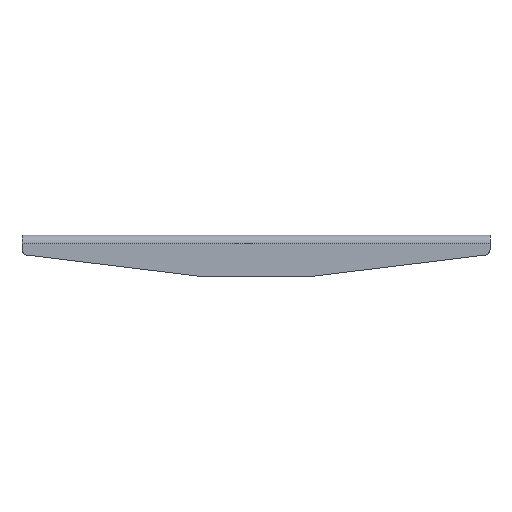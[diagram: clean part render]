
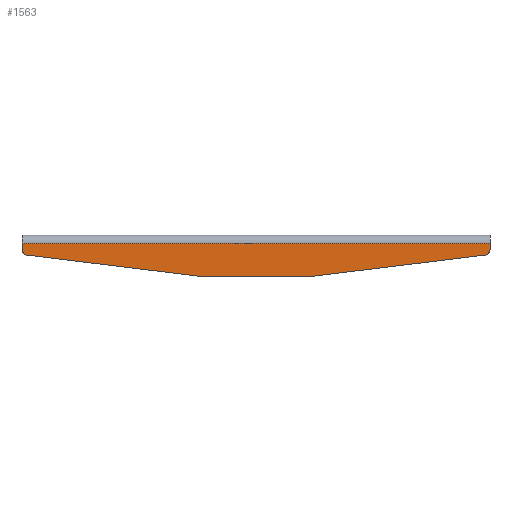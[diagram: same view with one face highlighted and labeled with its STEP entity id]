
A CAD part, left-side view. The second image highlights one B-rep face of the part: STEP entity #1563.
In plain terms, the highlighted planar face has unit normal (-1, 0, 0).
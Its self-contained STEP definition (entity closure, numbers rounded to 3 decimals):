
#135=LINE('',#2607,#265);
#139=LINE('',#2622,#269);
#156=LINE('',#2674,#286);
#157=LINE('',#2678,#287);
#158=LINE('',#2682,#288);
#159=LINE('',#2685,#289);
#265=VECTOR('',#2080,1000.);
#269=VECTOR('',#2094,1000.);
#286=VECTOR('',#2149,1000.);
#287=VECTOR('',#2152,1000.);
#288=VECTOR('',#2155,1000.);
#289=VECTOR('',#2158,1000.);
#502=ORIENTED_EDGE('',*,*,#875,.T.);
#503=ORIENTED_EDGE('',*,*,#910,.T.);
#504=ORIENTED_EDGE('',*,*,#911,.T.);
#505=ORIENTED_EDGE('',*,*,#912,.T.);
#506=ORIENTED_EDGE('',*,*,#913,.T.);
#507=ORIENTED_EDGE('',*,*,#914,.T.);
#508=ORIENTED_EDGE('',*,*,#915,.T.);
#509=ORIENTED_EDGE('',*,*,#916,.T.);
#510=ORIENTED_EDGE('',*,*,#883,.T.);
#511=ORIENTED_EDGE('',*,*,#917,.T.);
#875=EDGE_CURVE('',#1090,#1089,#135,.T.);
#883=EDGE_CURVE('',#1096,#1095,#139,.T.);
#910=EDGE_CURVE('',#1089,#1111,#1212,.T.);
#911=EDGE_CURVE('',#1111,#1112,#156,.T.);
#912=EDGE_CURVE('',#1112,#1113,#1213,.T.);
#913=EDGE_CURVE('',#1113,#1114,#157,.T.);
#914=EDGE_CURVE('',#1114,#1115,#1214,.T.);
#915=EDGE_CURVE('',#1115,#1116,#158,.T.);
#916=EDGE_CURVE('',#1116,#1096,#1215,.T.);
#917=EDGE_CURVE('',#1095,#1090,#159,.T.);
#1089=VERTEX_POINT('',#2606);
#1090=VERTEX_POINT('',#2608);
#1095=VERTEX_POINT('',#2621);
#1096=VERTEX_POINT('',#2623);
#1111=VERTEX_POINT('',#2673);
#1112=VERTEX_POINT('',#2675);
#1113=VERTEX_POINT('',#2677);
#1114=VERTEX_POINT('',#2679);
#1115=VERTEX_POINT('',#2681);
#1116=VERTEX_POINT('',#2683);
#1212=CIRCLE('',#1826,5.);
#1213=CIRCLE('',#1827,5.);
#1214=CIRCLE('',#1828,5.);
#1215=CIRCLE('',#1829,5.);
#1276=EDGE_LOOP('',(#502,#503,#504,#505,#506,#507,#508,#509,#510,#511));
#1416=FACE_BOUND('',#1276,.T.);
#1522=PLANE('',#1825);
#1563=ADVANCED_FACE('',(#1416),#1522,.T.);
#1825=AXIS2_PLACEMENT_3D('',#2671,#2145,#2146);
#1826=AXIS2_PLACEMENT_3D('',#2672,#2147,#2148);
#1827=AXIS2_PLACEMENT_3D('',#2676,#2150,#2151);
#1828=AXIS2_PLACEMENT_3D('',#2680,#2153,#2154);
#1829=AXIS2_PLACEMENT_3D('',#2684,#2156,#2157);
#2080=DIRECTION('',(0.,0.,1.));
#2094=DIRECTION('',(0.,0.,-1.));
#2145=DIRECTION('',(-1.,0.,0.));
#2146=DIRECTION('',(0.,0.,1.));
#2147=DIRECTION('',(-1.,0.,0.));
#2148=DIRECTION('',(0.,0.,1.));
#2149=DIRECTION('',(0.,0.993,0.122));
#2150=DIRECTION('',(-1.,0.,0.));
#2151=DIRECTION('',(0.,0.,1.));
#2152=DIRECTION('',(0.,1.,0.));
#2153=DIRECTION('',(-1.,0.,0.));
#2154=DIRECTION('',(0.,0.,1.));
#2155=DIRECTION('',(0.,0.993,-0.122));
#2156=DIRECTION('',(-1.,0.,0.));
#2157=DIRECTION('',(0.,0.,1.));
#2158=DIRECTION('',(0.,-1.,0.));
#2606=CARTESIAN_POINT('',(-5.,0.,14.089));
#2607=CARTESIAN_POINT('',(-5.,0.,4.241));
#2608=CARTESIAN_POINT('',(-5.,0.,7.5));
#2621=CARTESIAN_POINT('',(-5.,450.,7.5));
#2622=CARTESIAN_POINT('',(-5.,450.,4.241));
#2623=CARTESIAN_POINT('',(-5.,450.,14.089));
#2671=CARTESIAN_POINT('',(-5.,0.,0.));
#2672=CARTESIAN_POINT('',(-5.,5.,14.089));
#2673=CARTESIAN_POINT('',(-5.,4.391,19.052));
#2674=CARTESIAN_POINT('',(-5.,0.,18.513));
#2675=CARTESIAN_POINT('',(-5.,174.696,39.963));
#2676=CARTESIAN_POINT('',(-5.,175.306,35.));
#2677=CARTESIAN_POINT('',(-5.,175.306,40.));
#2678=CARTESIAN_POINT('',(-5.,175.,40.));
#2679=CARTESIAN_POINT('',(-5.,274.694,40.));
#2680=CARTESIAN_POINT('',(-5.,274.694,35.));
#2681=CARTESIAN_POINT('',(-5.,275.304,39.963));
#2682=CARTESIAN_POINT('',(-5.,275.,40.));
#2683=CARTESIAN_POINT('',(-5.,445.609,19.052));
#2684=CARTESIAN_POINT('',(-5.,445.,14.089));
#2685=CARTESIAN_POINT('',(-5.,450.,7.5));
